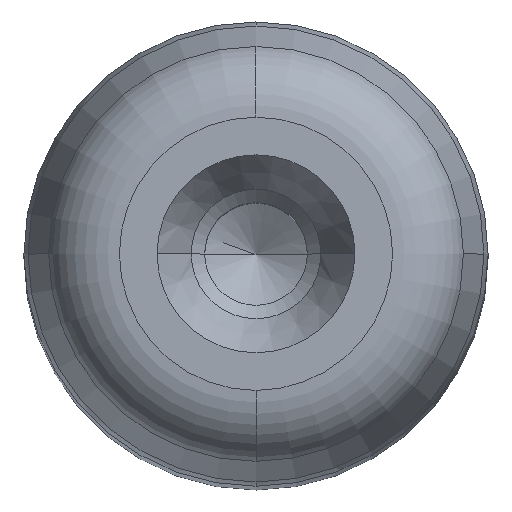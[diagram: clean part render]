
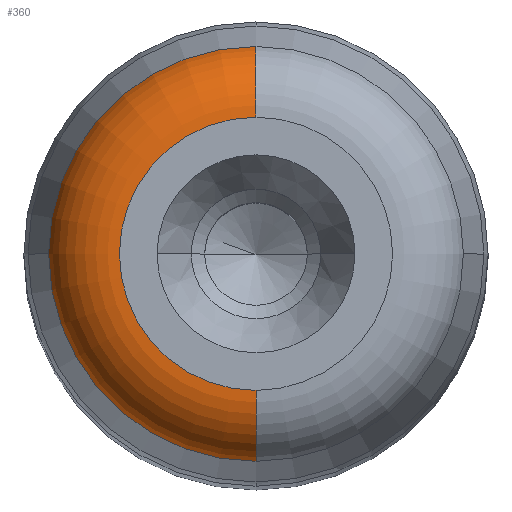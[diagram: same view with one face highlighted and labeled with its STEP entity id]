
A CAD part, top view. The second image highlights one B-rep face of the part: STEP entity #360.
In plain terms, the highlighted toroidal (fillet/blend) face has major radius 5.59 mm and minor radius 3 mm.
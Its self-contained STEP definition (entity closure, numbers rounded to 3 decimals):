
#308=CARTESIAN_POINT('',(0.0,97.0,0.0));
#309=DIRECTION('',(0.0,1.0,0.0));
#310=DIRECTION('',(0.0,0.0,1.0));
#311=AXIS2_PLACEMENT_3D('',#308,#309,#310);
#312=TOROIDAL_SURFACE('',#311,5.59,3.0);
#313=CARTESIAN_POINT('',(0.0,100.0,5.59));
#314=VERTEX_POINT('',#313);
#315=CARTESIAN_POINT('',(0.0,97.776,8.488));
#316=VERTEX_POINT('',#315);
#317=CARTESIAN_POINT('',(0.0,97.0,5.59));
#318=DIRECTION('',(1.0,0.0,0.0));
#319=DIRECTION('',(0.0,0.0,1.0));
#320=AXIS2_PLACEMENT_3D('',#317,#318,#319);
#321=CIRCLE('',#320,3.0);
#322=EDGE_CURVE('',#314,#316,#321,.T.);
#323=ORIENTED_EDGE('',*,*,#322,.F.);
#324=CARTESIAN_POINT('',(0.,100.0,-5.59));
#325=VERTEX_POINT('',#324);
#326=CARTESIAN_POINT('',(0.0,100.0,0.0));
#327=DIRECTION('',(0.0,1.0,0.0));
#328=DIRECTION('',(1.0,0.0,0.0));
#329=AXIS2_PLACEMENT_3D('',#326,#327,#328);
#330=CIRCLE('',#329,5.59);
#331=EDGE_CURVE('',#325,#314,#330,.T.);
#332=ORIENTED_EDGE('',*,*,#331,.F.);
#333=CARTESIAN_POINT('',(0.,97.776,-8.488));
#334=VERTEX_POINT('',#333);
#335=CARTESIAN_POINT('',(0.,97.0,-5.59));
#336=DIRECTION('',(-1.0,0.0,0.0));
#337=DIRECTION('',(0.0,0.0,-1.0));
#338=AXIS2_PLACEMENT_3D('',#335,#336,#337);
#339=CIRCLE('',#338,3.0);
#340=EDGE_CURVE('',#325,#334,#339,.T.);
#341=ORIENTED_EDGE('',*,*,#340,.T.);
#342=CARTESIAN_POINT('',(-8.488,97.776,0.));
#343=VERTEX_POINT('',#342);
#344=CARTESIAN_POINT('',(0.0,97.776,0.0));
#345=DIRECTION('',(0.0,1.0,0.0));
#346=DIRECTION('',(1.0,0.0,0.0));
#347=AXIS2_PLACEMENT_3D('',#344,#345,#346);
#348=CIRCLE('',#347,8.488);
#349=EDGE_CURVE('',#334,#343,#348,.T.);
#350=ORIENTED_EDGE('',*,*,#349,.T.);
#351=CARTESIAN_POINT('',(0.0,97.776,0.0));
#352=DIRECTION('',(0.0,1.0,0.0));
#353=DIRECTION('',(1.0,0.0,0.0));
#354=AXIS2_PLACEMENT_3D('',#351,#352,#353);
#355=CIRCLE('',#354,8.488);
#356=EDGE_CURVE('',#343,#316,#355,.T.);
#357=ORIENTED_EDGE('',*,*,#356,.T.);
#358=EDGE_LOOP('',(#323,#332,#341,#350,#357));
#359=FACE_OUTER_BOUND('',#358,.T.);
#360=ADVANCED_FACE('',(#359),#312,.T.);
